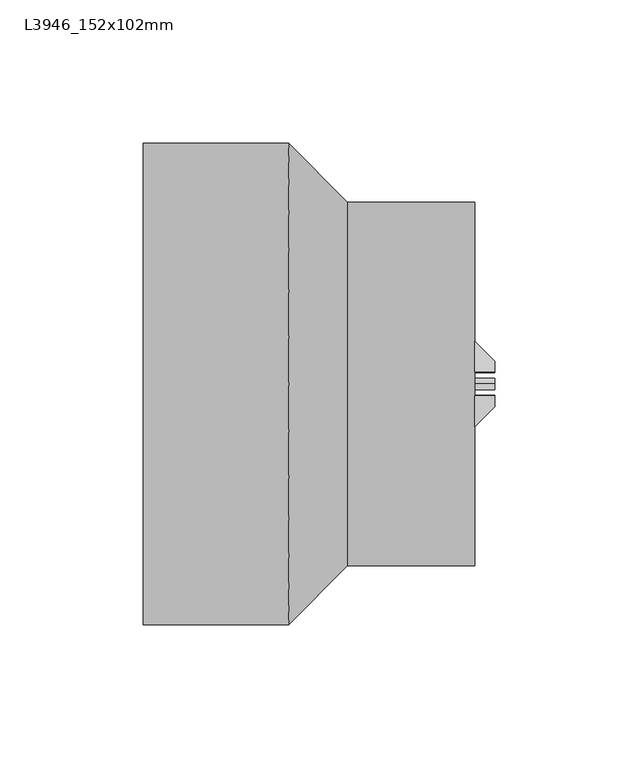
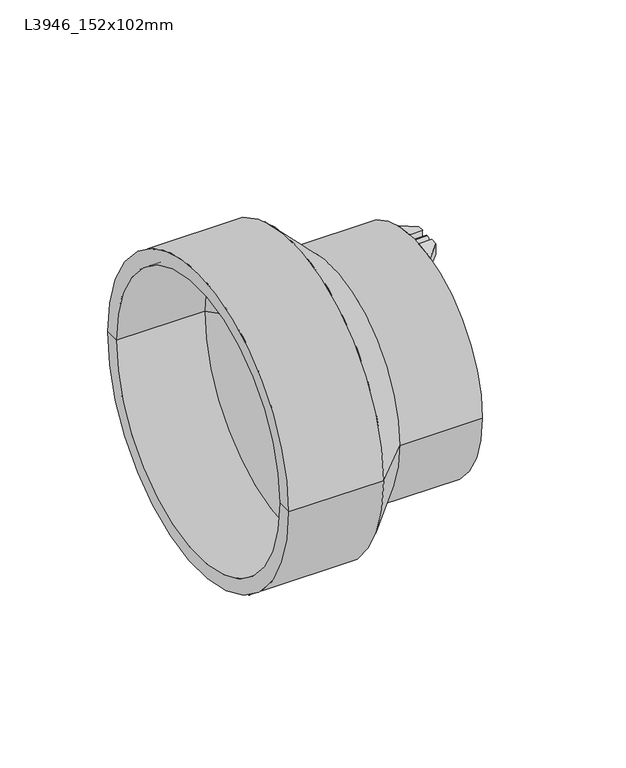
"""IFC4 building model written with IfcOpenShell, lengths in millimetres: pipe fitting geometry, Durapipe_PipeFitting_VulcatheneEnfusion_ReducingCoupler_L39 : L3946_152x102mm."""

from ifc_helpers import new_model, si_unit, point, frame, frame_2d, origin, place, context, project, spatial, polyline, circle_curve, ellipse_curve, trimmed, segment, composite_curve, outline, extrude, source, transform, mapped, element, save
from ifc_brep_helpers import plane_surface, cylinder_surface, revolved_surface, advanced_brep


def l3946_152x102mm_5eb670cd(model_context):
    return source(origin(), model_context, "Body", "SolidModel", [
        advanced_brep(
        [(65.0, -3.9898603, 57.4115277), (65.0, -4.1846644, 63.1615277), (65.0, -7.94, 62.800051), (65.0, -7.94, 56.9996395), (57.9, -15.0, 61.4970731), (57.9, -4.1846644, 63.1615277), (57.9, -3.9898603, 57.4115277), (57.9, -15.0, 55.5608)],
        [
            (0, 1, circle_curve(frame((65.0, 0.0, 60.425), z_axis=(-1.0, 0.0, 0.0), x_axis=(0.0, 0.0, -1.0)), 5.0)),
            (1, 2, circle_curve(frame((65.0, 0.0, 0.0), z_axis=(1.0, 0.0, 0.0), x_axis=(0.0, 0.0, -1.0)), 63.3)),
            (2, 3),
            (3, 0, circle_curve(frame((65.0, 0.0, 0.0), z_axis=(-1.0, 0.0, 0.0), x_axis=(0.0, 0.0, -1.0)), 57.55)),
            (4, 5, circle_curve(frame((57.9, 0.0, 0.0), z_axis=(-1.0, 0.0, 0.0), x_axis=(0.0, 0.0, -1.0)), 63.3)),
            (5, 6, circle_curve(frame((57.9, 0.0, 60.425), z_axis=(1.0, 0.0, 0.0), x_axis=(0.0, 0.0, -1.0)), 5.0)),
            (6, 7, circle_curve(frame((57.9, 0.0, 0.0), z_axis=(1.0, 0.0, 0.0), x_axis=(0.0, 0.0, -1.0)), 57.55)),
            (7, 4),
            (6, 0),
            (3, 7, ellipse_curve(frame((72.9849858, 0.0, 0.0), z_axis=(0.7051064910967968, -0.7091014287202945, 0.0), x_axis=(-0.7091014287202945, -0.7051064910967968, 0.0)), 81.618877, 57.55)),
            (4, 2, ellipse_curve(frame((72.9849858, 0.0, 0.0), z_axis=(-0.7051064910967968, 0.7091014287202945, 0.0), x_axis=(0.7091014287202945, 0.7051064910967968, 0.0)), 89.7736736, 63.3)),
            (1, 5),
        ],
        [
            plane_surface(frame((65.0, -15.0, 61.4970731), z_axis=(1.0, 0.0, 0.0), x_axis=(0.0, 0.0, -1.0))),
            plane_surface(frame((57.9, -15.0, 61.4970731), z_axis=(-1.0, 0.0, 0.0), x_axis=(0.0, 0.0, 1.0))),
            revolved_surface(polyline([(15.108923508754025, 0.0, -57.55), (130.86104809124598, 0.0, -57.55)]), (57.9, 0.0, 0.0), (-1.0, 0.0, 0.0)),
            cylinder_surface(frame((57.9, 0.0, 0.0), z_axis=(1.0, 0.0, 0.0), x_axis=(0.0, 0.0, -1.0)), 63.3),
            revolved_surface(polyline([(65.0, 0.0, 55.425), (57.9, 0.0, 55.425)]), (57.9, 0.0, 60.425), (1.0, 0.0, 0.0)),
            plane_surface(frame((57.9, -15.0, -63.3), z_axis=(0.7051064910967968, -0.7091014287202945, 0.0), x_axis=(0.0, 0.0, 1.0))),
        ],
        [
            (0, [[1, 2, 3, 4]]),
            (1, [[5, 6, 7, 8]]),
            (2, [[-7, 9, -4, 10]]),
            (3, [[-5, 11, -2, 12]]),
            (4, [[-1, -9, -6, -12]]),
            (5, [[-3, -11, -8, -10]]),
        ],
    ),
        advanced_brep(
        [(65.0, 4.1846644, 63.1615277), (65.0, 3.9898603, 57.4115277), (65.0, 7.94, 56.9996395), (65.0, 7.94, 62.800051), (57.9, 4.1846644, 63.1615277), (57.9, 15.0, 61.4970731), (57.9, 15.0, 55.5608), (57.9, 3.9898603, 57.4115277)],
        [
            (0, 1, circle_curve(frame((65.0, 0.0, 60.425), z_axis=(-1.0, 0.0, 0.0), x_axis=(0.0, 0.0, -1.0)), 5.0)),
            (1, 2, circle_curve(frame((65.0, 0.0, 0.0), z_axis=(-1.0, 0.0, 0.0), x_axis=(0.0, 0.0, -1.0)), 57.55)),
            (2, 3),
            (3, 0, circle_curve(frame((65.0, 0.0, 0.0), z_axis=(1.0, 0.0, 0.0), x_axis=(0.0, 0.0, -1.0)), 63.3)),
            (4, 5, circle_curve(frame((57.9, 0.0, 0.0), z_axis=(-1.0, 0.0, 0.0), x_axis=(0.0, 0.0, -1.0)), 63.3)),
            (5, 6),
            (6, 7, circle_curve(frame((57.9, 0.0, 0.0), z_axis=(1.0, 0.0, 0.0), x_axis=(0.0, 0.0, -1.0)), 57.55)),
            (7, 4, circle_curve(frame((57.9, 0.0, 60.425), z_axis=(1.0, 0.0, 0.0), x_axis=(0.0, 0.0, -1.0)), 5.0)),
            (6, 2, ellipse_curve(frame((72.9849858, 0.0, 0.0), z_axis=(0.7051064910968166, 0.7091014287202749, 0.0), x_axis=(-0.7091014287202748, 0.7051064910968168, 0.0)), 81.618877, 57.55)),
            (1, 7),
            (4, 0),
            (3, 5, ellipse_curve(frame((72.9849858, 0.0, 0.0), z_axis=(-0.7051064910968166, -0.7091014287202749, 0.0), x_axis=(0.7091014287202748, -0.7051064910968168, 0.0)), 89.7736736, 63.3)),
        ],
        [
            plane_surface(frame((65.0, -15.0, 61.4970731), z_axis=(1.0, 0.0, 0.0), x_axis=(0.0, 0.0, -1.0))),
            plane_surface(frame((57.9, -15.0, 61.4970731), z_axis=(-1.0, 0.0, 0.0), x_axis=(0.0, 0.0, 1.0))),
            revolved_surface(polyline([(15.10892350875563, 0.0, -57.55), (130.86104809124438, 0.0, -57.55)]), (57.9, 0.0, 0.0), (-1.0, 0.0, 0.0)),
            cylinder_surface(frame((57.9, 0.0, 0.0), z_axis=(1.0, 0.0, 0.0), x_axis=(0.0, 0.0, -1.0)), 63.3),
            revolved_surface(polyline([(65.0, 0.0, 55.425), (57.9, 0.0, 55.425)]), (57.9, 0.0, 60.425), (1.0, 0.0, 0.0)),
            plane_surface(frame((65.0, 7.94, -63.3), z_axis=(0.7051064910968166, 0.7091014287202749, 0.0), x_axis=(0.0, 0.0, 1.0))),
        ],
        [
            (0, [[1, 2, 3, 4]]),
            (1, [[5, 6, 7, 8]]),
            (2, [[-7, 9, -2, 10]]),
            (3, [[-5, 11, -4, 12]]),
            (4, [[-1, -11, -8, -10]]),
            (5, [[-3, -9, -6, -12]]),
        ],
    ),
        advanced_brep(
        [(65.0, -4.1846644, -63.1615277), (65.0, -3.9898603, -57.4115277), (65.0, -7.94, -56.9996395), (65.0, -7.94, -62.800051), (57.9, -4.1846644, -63.1615277), (57.9, -15.0, -61.4970731), (57.9, -15.0, -55.5608), (57.9, -3.9898603, -57.4115277)],
        [
            (0, 1, circle_curve(frame((65.0, 0.0, -60.425), z_axis=(-1.0, 0.0, 0.0), x_axis=(0.0, 0.0, -1.0)), 5.0)),
            (1, 2, circle_curve(frame((65.0, 0.0, 0.0), z_axis=(-1.0, 0.0, 0.0), x_axis=(0.0, 0.0, -1.0)), 57.55)),
            (2, 3),
            (3, 0, circle_curve(frame((65.0, 0.0, 0.0), z_axis=(1.0, 0.0, 0.0), x_axis=(0.0, 0.0, -1.0)), 63.3)),
            (4, 5, circle_curve(frame((57.9, 0.0, 0.0), z_axis=(-1.0, 0.0, 0.0), x_axis=(0.0, 0.0, -1.0)), 63.3)),
            (5, 6),
            (6, 7, circle_curve(frame((57.9, 0.0, 0.0), z_axis=(1.0, 0.0, 0.0), x_axis=(0.0, 0.0, -1.0)), 57.55)),
            (7, 4, circle_curve(frame((57.9, 0.0, -60.425), z_axis=(1.0, 0.0, 0.0), x_axis=(0.0, 0.0, -1.0)), 5.0)),
            (6, 2, ellipse_curve(frame((72.9849858, 0.0, 0.0), z_axis=(0.7051064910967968, -0.7091014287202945, 0.0), x_axis=(-0.7091014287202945, -0.7051064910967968, 0.0)), 81.618877, 57.55)),
            (1, 7),
            (4, 0),
            (3, 5, ellipse_curve(frame((72.9849858, 0.0, 0.0), z_axis=(-0.7051064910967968, 0.7091014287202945, 0.0), x_axis=(0.7091014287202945, 0.7051064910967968, 0.0)), 89.7736736, 63.3)),
        ],
        [
            plane_surface(frame((65.0, -15.0, 61.4970731), z_axis=(1.0, 0.0, 0.0), x_axis=(0.0, 0.0, -1.0))),
            plane_surface(frame((57.9, -15.0, 61.4970731), z_axis=(-1.0, 0.0, 0.0), x_axis=(0.0, 0.0, 1.0))),
            revolved_surface(polyline([(15.108923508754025, 0.0, -57.55), (130.86104809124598, 0.0, -57.55)]), (57.9, 0.0, 0.0), (-1.0, 0.0, 0.0)),
            cylinder_surface(frame((57.9, 0.0, 0.0), z_axis=(1.0, 0.0, 0.0), x_axis=(0.0, 0.0, -1.0)), 63.3),
            revolved_surface(polyline([(65.0, 0.0, -65.425), (57.9, 0.0, -65.425)]), (57.9, 0.0, -60.425), (1.0, 0.0, 0.0)),
            plane_surface(frame((57.9, -15.0, -63.3), z_axis=(0.7051064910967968, -0.7091014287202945, 0.0), x_axis=(0.0, 0.0, 1.0))),
        ],
        [
            (0, [[1, 2, 3, 4]]),
            (1, [[5, 6, 7, 8]]),
            (2, [[-7, 9, -2, 10]]),
            (3, [[-5, 11, -4, 12]]),
            (4, [[-1, -11, -8, -10]]),
            (5, [[-3, -9, -6, -12]]),
        ],
    ),
        advanced_brep(
        [(65.0, 3.9898603, -57.4115277), (65.0, 4.1846644, -63.1615277), (65.0, 7.94, -62.800051), (65.0, 7.94, -56.9996395), (57.9, 15.0, -61.4970731), (57.9, 4.1846644, -63.1615277), (57.9, 3.9898603, -57.4115277), (57.9, 15.0, -55.5608)],
        [
            (0, 1, circle_curve(frame((65.0, 0.0, -60.425), z_axis=(-1.0, 0.0, 0.0), x_axis=(0.0, 0.0, -1.0)), 5.0)),
            (1, 2, circle_curve(frame((65.0, 0.0, 0.0), z_axis=(1.0, 0.0, 0.0), x_axis=(0.0, 0.0, -1.0)), 63.3)),
            (2, 3),
            (3, 0, circle_curve(frame((65.0, 0.0, 0.0), z_axis=(-1.0, 0.0, 0.0), x_axis=(0.0, 0.0, -1.0)), 57.55)),
            (4, 5, circle_curve(frame((57.9, 0.0, 0.0), z_axis=(-1.0, 0.0, 0.0), x_axis=(0.0, 0.0, -1.0)), 63.3)),
            (5, 6, circle_curve(frame((57.9, 0.0, -60.425), z_axis=(1.0, 0.0, 0.0), x_axis=(0.0, 0.0, -1.0)), 5.0)),
            (6, 7, circle_curve(frame((57.9, 0.0, 0.0), z_axis=(1.0, 0.0, 0.0), x_axis=(0.0, 0.0, -1.0)), 57.55)),
            (7, 4),
            (6, 0),
            (3, 7, ellipse_curve(frame((72.9849858, 0.0, 0.0), z_axis=(0.7051064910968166, 0.7091014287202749, 0.0), x_axis=(-0.7091014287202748, 0.7051064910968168, 0.0)), 81.618877, 57.55)),
            (4, 2, ellipse_curve(frame((72.9849858, 0.0, 0.0), z_axis=(-0.7051064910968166, -0.7091014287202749, 0.0), x_axis=(0.7091014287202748, -0.7051064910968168, 0.0)), 89.7736736, 63.3)),
            (1, 5),
        ],
        [
            plane_surface(frame((65.0, -15.0, 61.4970731), z_axis=(1.0, 0.0, 0.0), x_axis=(0.0, 0.0, -1.0))),
            plane_surface(frame((57.9, -15.0, 61.4970731), z_axis=(-1.0, 0.0, 0.0), x_axis=(0.0, 0.0, 1.0))),
            revolved_surface(polyline([(15.10892350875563, 0.0, -57.55), (130.86104809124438, 0.0, -57.55)]), (57.9, 0.0, 0.0), (-1.0, 0.0, 0.0)),
            cylinder_surface(frame((57.9, 0.0, 0.0), z_axis=(1.0, 0.0, 0.0), x_axis=(0.0, 0.0, -1.0)), 63.3),
            revolved_surface(polyline([(65.0, 0.0, -65.425), (57.9, 0.0, -65.425)]), (57.9, 0.0, -60.425), (1.0, 0.0, 0.0)),
            plane_surface(frame((65.0, 7.94, -63.3), z_axis=(0.7051064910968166, 0.7091014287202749, 0.0), x_axis=(0.0, 0.0, 1.0))),
        ],
        [
            (0, [[1, 2, 3, 4]]),
            (1, [[5, 6, 7, 8]]),
            (2, [[-7, 9, -4, 10]]),
            (3, [[-5, 11, -2, 12]]),
            (4, [[-1, -9, -6, -12]]),
            (5, [[-3, -11, -8, -10]]),
        ],
    ),
        extrude(outline(composite_curve([segment(trimmed(circle_curve(frame_2d((0.0, 60.425)), 2.0), [point((0.0, 62.425))], [point((0.0, 58.425))], False, "CARTESIAN"), True, "CONTINUOUS"), segment(trimmed(circle_curve(frame_2d((0.0, 60.425)), 2.0), [point((0.0, 58.425))], [point((0.0, 62.425))], False, "CARTESIAN"), True, "CONTINUOUS")], self_intersect=False)), frame((57.9, 0.0, 0.0), z_axis=(1.0, 0.0, 0.0), x_axis=(0.0, 1.0, 0.0)), (0.0, 0.0, 1.0), 7.1),
        extrude(outline(composite_curve([segment(trimmed(circle_curve(frame_2d((0.0, -60.425)), 2.0), [point((0.0, -58.425))], [point((0.0, -62.425))], False, "CARTESIAN"), True, "CONTINUOUS"), segment(trimmed(circle_curve(frame_2d((0.0, -60.425)), 2.0), [point((0.0, -62.425))], [point((0.0, -58.425))], False, "CARTESIAN"), True, "CONTINUOUS")], self_intersect=False)), frame((57.9, 0.0, 0.0), z_axis=(1.0, 0.0, 0.0), x_axis=(0.0, 1.0, 0.0)), (0.0, 0.0, 1.0), 7.1),
        advanced_brep(
        [(-7.1, -84.15, 0.0), (-7.1, 84.15, 0.0), (13.5, 63.45, 0.0), (13.5, -63.45, 0.0), (-57.9, -84.15, 0.0), (-57.9, 84.15, 0.0), (-57.9, -76.2, 0.0), (-57.9, 76.2, 0.0), (-10.5, -76.2, 0.0), (-10.5, 76.2, 0.0), (57.9, -57.4, 0.0), (57.9, 57.4, 0.0), (19.7, 57.4, 0.0), (19.7, -57.4, 0.0), (57.9, -63.45, 0.0), (57.9, 63.45, 0.0), (14.9, -50.8, 0.0), (14.9, 50.8, 0.0), (19.7, -50.8, 0.0), (19.7, 50.8, 0.0)],
        [
            (0, 1, circle_curve(frame((-7.1, 0.0, 0.0), z_axis=(1.0, 0.0, 0.0), x_axis=(0.0, 1.0, 0.0)), 84.15)),
            (1, 2),
            (2, 3, circle_curve(frame((13.5, 0.0, 0.0), z_axis=(-1.0, 0.0, 0.0), x_axis=(0.0, 1.0, 0.0)), 63.45)),
            (3, 0),
            (1, 0, circle_curve(frame((-7.1, 0.0, 0.0), z_axis=(1.0, 0.0, 0.0), x_axis=(0.0, 1.0, 0.0)), 84.15)),
            (3, 2, circle_curve(frame((13.5, 0.0, 0.0), z_axis=(-1.0, 0.0, 0.0), x_axis=(0.0, 1.0, 0.0)), 63.45)),
            (4, 5, circle_curve(frame((-57.9, 0.0, 0.0), z_axis=(1.0, 0.0, 0.0), x_axis=(0.0, 1.0, 0.0)), 84.15)),
            (5, 1),
            (0, 4),
            (5, 4, circle_curve(frame((-57.9, 0.0, 0.0), z_axis=(1.0, 0.0, 0.0), x_axis=(0.0, 1.0, 0.0)), 84.15)),
            (6, 7, circle_curve(frame((-57.9, 0.0, 0.0), z_axis=(1.0, 0.0, 0.0), x_axis=(0.0, 1.0, 0.0)), 76.2)),
            (7, 5),
            (4, 6),
            (7, 6, circle_curve(frame((-57.9, 0.0, 0.0), z_axis=(1.0, 0.0, 0.0), x_axis=(0.0, 1.0, 0.0)), 76.2)),
            (8, 9, circle_curve(frame((-10.5, 0.0, 0.0), z_axis=(1.0, 0.0, 0.0), x_axis=(0.0, 1.0, 0.0)), 76.2)),
            (9, 7),
            (6, 8),
            (9, 8, circle_curve(frame((-10.5, 0.0, 0.0), z_axis=(1.0, 0.0, 0.0), x_axis=(0.0, 1.0, 0.0)), 76.2)),
            (10, 11, circle_curve(frame((57.9, 0.0, 0.0), z_axis=(1.0, 0.0, 0.0), x_axis=(0.0, 1.0, 0.0)), 57.4)),
            (11, 12),
            (12, 13, circle_curve(frame((19.7, 0.0, 0.0), z_axis=(-1.0, 0.0, 0.0), x_axis=(0.0, 1.0, 0.0)), 57.4)),
            (13, 10),
            (11, 10, circle_curve(frame((57.9, 0.0, 0.0), z_axis=(1.0, 0.0, 0.0), x_axis=(0.0, 1.0, 0.0)), 57.4)),
            (13, 12, circle_curve(frame((19.7, 0.0, 0.0), z_axis=(-1.0, 0.0, 0.0), x_axis=(0.0, 1.0, 0.0)), 57.4)),
            (14, 15, circle_curve(frame((57.9, 0.0, 0.0), z_axis=(1.0, 0.0, 0.0), x_axis=(0.0, 1.0, 0.0)), 63.45)),
            (15, 11),
            (10, 14),
            (15, 14, circle_curve(frame((57.9, 0.0, 0.0), z_axis=(1.0, 0.0, 0.0), x_axis=(0.0, 1.0, 0.0)), 63.45)),
            (2, 15),
            (14, 3),
            (16, 17, circle_curve(frame((14.9, 0.0, 0.0), z_axis=(1.0, 0.0, 0.0), x_axis=(0.0, 1.0, 0.0)), 50.8)),
            (17, 9),
            (8, 16),
            (17, 16, circle_curve(frame((14.9, 0.0, 0.0), z_axis=(1.0, 0.0, 0.0), x_axis=(0.0, 1.0, 0.0)), 50.8)),
            (18, 19, circle_curve(frame((19.7, 0.0, 0.0), z_axis=(1.0, 0.0, 0.0), x_axis=(0.0, 1.0, 0.0)), 50.8)),
            (19, 17),
            (16, 18),
            (19, 18, circle_curve(frame((19.7, 0.0, 0.0), z_axis=(1.0, 0.0, 0.0), x_axis=(0.0, 1.0, 0.0)), 50.8)),
            (12, 19),
            (18, 13),
        ],
        [
            revolved_surface(polyline([(13.5, 63.45, 0.0), (-7.1, 84.15, 0.0)]), (1587.4018184, 0.0, 0.0), (-1.0, 0.0, 0.0)),
            cylinder_surface(frame((1587.4018184, 0.0, 0.0), z_axis=(-1.0, 0.0, 0.0), x_axis=(0.0, 1.0, 0.0)), 84.15),
            plane_surface(frame((-57.9, 0.0, 0.0), z_axis=(-1.0, 0.0, 0.0), x_axis=(0.0, 1.0, 0.0))),
            revolved_surface(polyline([(-57.90000000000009, 76.2, 0.0), (-10.5, 76.2, 0.0)]), (1587.4018184, 0.0, 0.0), (-1.0, 0.0, 0.0)),
            revolved_surface(polyline([(19.700000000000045, 57.4, 0.0), (57.90000000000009, 57.4, 0.0)]), (1587.4018184, 0.0, 0.0), (-1.0, 0.0, 0.0)),
            plane_surface(frame((57.9, 0.0, 0.0), z_axis=(1.0, 0.0, 0.0), x_axis=(0.0, 1.0, 0.0))),
            cylinder_surface(frame((1587.4018184, 0.0, 0.0), z_axis=(-1.0, 0.0, 0.0), x_axis=(0.0, 1.0, 0.0)), 63.45),
            revolved_surface(polyline([(-10.5, 76.2, 0.0), (14.9, 50.8, 0.0)]), (1587.4018184, 0.0, 0.0), (-1.0, 0.0, 0.0)),
            revolved_surface(polyline([(14.900000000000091, 50.8, 0.0), (19.700000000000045, 50.8, 0.0)]), (1587.4018184, 0.0, 0.0), (-1.0, 0.0, 0.0)),
            plane_surface(frame((19.7, 0.0, 0.0), z_axis=(1.0, 0.0, 0.0), x_axis=(0.0, 1.0, 0.0))),
        ],
        [
            (0, [[1, 2, 3, 4]]),
            (0, [[5, -4, 6, -2]]),
            (1, [[7, 8, -1, 9]]),
            (1, [[10, -9, -5, -8]]),
            (2, [[11, 12, -7, 13]]),
            (2, [[14, -13, -10, -12]]),
            (3, [[15, 16, -11, 17]]),
            (3, [[18, -17, -14, -16]]),
            (4, [[19, 20, 21, 22]]),
            (4, [[23, -22, 24, -20]]),
            (5, [[25, 26, -19, 27]]),
            (5, [[28, -27, -23, -26]]),
            (6, [[-3, 29, -25, 30]]),
            (6, [[-6, -30, -28, -29]]),
            (7, [[31, 32, -15, 33]]),
            (7, [[34, -33, -18, -32]]),
            (8, [[35, 36, -31, 37]]),
            (8, [[38, -37, -34, -36]]),
            (9, [[-21, 39, -35, 40]]),
            (9, [[-24, -40, -38, -39]]),
        ],
    ),
    ])


if __name__ == "__main__":
    model = new_model("IFC4")
    model_context = context("Model", 3, world=origin())
    ifc_project = project(units=[si_unit("LENGTHUNIT", "METRE", prefix="MILLI")], contexts=[model_context])
    site = spatial("IfcSite", under=ifc_project)
    building = spatial("IfcBuilding", under=site)
    placement = place(None, origin())
    l3946_152x102mm_shape = l3946_152x102mm_5eb670cd(model_context)
    element("IfcPipeFitting", 1, ObjectType="Durapipe_PipeFitting_VulcatheneEnfusion_ReducingCoupler_L39 : L3946_152x102mm", at=placement, inside=building, context=model_context, shape_type="MappedRepresentation", body=[
        mapped(l3946_152x102mm_shape, transform((0.0, 0.0, 0.0), x_axis=(1.0, 0.0, 0.0), y_axis=(0.0, 1.0, 0.0), z_axis=(0.0, 0.0, 1.0))),
    ])
    save(model, "model.ifc")
